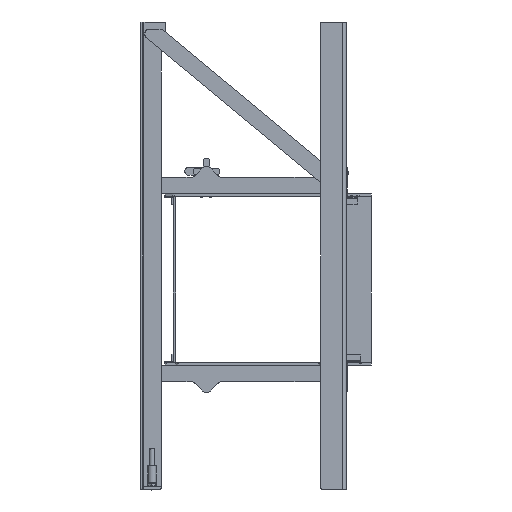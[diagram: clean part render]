
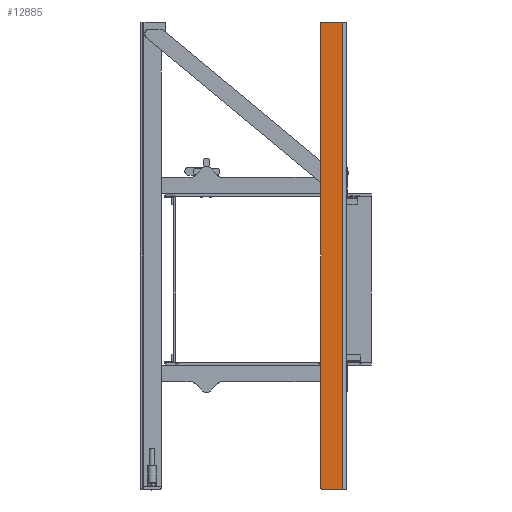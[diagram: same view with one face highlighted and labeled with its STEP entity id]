
A CAD part, left-side view. The second image highlights one B-rep face of the part: STEP entity #12885.
In plain terms, the highlighted planar face has unit normal (-1, 0, 0).
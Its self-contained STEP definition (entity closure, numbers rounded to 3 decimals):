
#1021=FACE_OUTER_BOUND('',#1736,.T.);
#1736=EDGE_LOOP('',(#10537,#10538,#10539,#10540,#10541,#10542));
#2798=LINE('',#21085,#3917);
#2804=LINE('',#21102,#3923);
#2808=LINE('',#21111,#3927);
#2809=LINE('',#21113,#3928);
#3917=VECTOR('',#17203,10.);
#3923=VECTOR('',#17225,10.);
#3927=VECTOR('',#17239,10.);
#3928=VECTOR('',#17242,10.);
#4615=CIRCLE('',#14076,2.);
#4617=CIRCLE('',#14081,2.);
#5651=VERTEX_POINT('',#21068);
#5652=VERTEX_POINT('',#21070);
#5657=VERTEX_POINT('',#21084);
#5658=VERTEX_POINT('',#21088);
#5659=VERTEX_POINT('',#21099);
#5660=VERTEX_POINT('',#21101);
#7319=EDGE_CURVE('',#5651,#5652,#4615,.T.);
#7326=EDGE_CURVE('',#5652,#5657,#2798,.T.);
#7328=EDGE_CURVE('',#5657,#5658,#4617,.T.);
#7334=EDGE_CURVE('',#5659,#5660,#2804,.T.);
#7340=EDGE_CURVE('',#5651,#5660,#2808,.T.);
#7341=EDGE_CURVE('',#5658,#5659,#2809,.T.);
#10537=ORIENTED_EDGE('',*,*,#7319,.F.);
#10538=ORIENTED_EDGE('',*,*,#7340,.T.);
#10539=ORIENTED_EDGE('',*,*,#7334,.F.);
#10540=ORIENTED_EDGE('',*,*,#7341,.F.);
#10541=ORIENTED_EDGE('',*,*,#7328,.F.);
#10542=ORIENTED_EDGE('',*,*,#7326,.F.);
#11790=PLANE('',#14097);
#12885=ADVANCED_FACE('',(#1021),#11790,.F.);
#14076=AXIS2_PLACEMENT_3D('',#21071,#17190,#17191);
#14081=AXIS2_PLACEMENT_3D('',#21089,#17207,#17208);
#14097=AXIS2_PLACEMENT_3D('',#21117,#17249,#17250);
#17190=DIRECTION('center_axis',(1.,0.,0.));
#17191=DIRECTION('ref_axis',(0.,0.707,-0.707));
#17203=DIRECTION('',(0.,0.,1.));
#17207=DIRECTION('center_axis',(1.,0.,0.));
#17208=DIRECTION('ref_axis',(0.,0.707,0.707));
#17225=DIRECTION('',(0.,0.,-1.));
#17239=DIRECTION('',(0.,-1.,0.));
#17242=DIRECTION('',(0.,-1.,0.));
#17249=DIRECTION('center_axis',(1.,0.,0.));
#17250=DIRECTION('ref_axis',(0.,0.,
-1.));
#21068=CARTESIAN_POINT('',(-90.4,150.,-879.));
#21070=CARTESIAN_POINT('',(-90.4,152.,-877.));
#21071=CARTESIAN_POINT('Origin',(-90.4,150.,-877.));
#21084=CARTESIAN_POINT('',(-90.4,152.,522.));
#21085=CARTESIAN_POINT('',(-90.4,152.,-879.));
#21088=CARTESIAN_POINT('',(-90.4,150.,524.));
#21089=CARTESIAN_POINT('Origin',(-90.4,150.,522.));
#21099=CARTESIAN_POINT('',(-90.4,86.25,524.));
#21101=CARTESIAN_POINT('',(-90.4,86.25,-879.));
#21102=CARTESIAN_POINT('',(-90.4,86.25,-177.5));
#21111=CARTESIAN_POINT('',(-90.4,152.,-879.));
#21113=CARTESIAN_POINT('',(-90.4,152.,524.));
#21117=CARTESIAN_POINT('Origin',(-90.4,87.709,-177.5));
